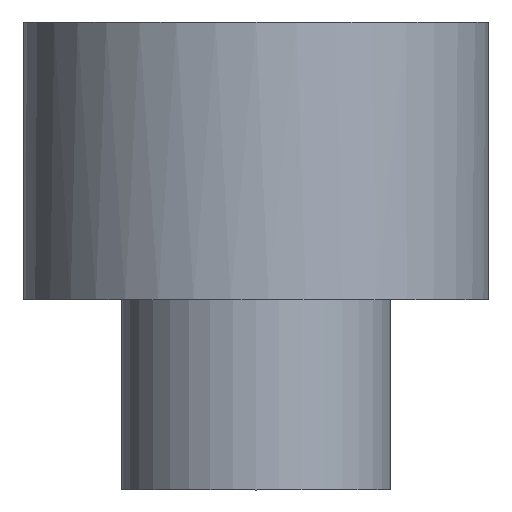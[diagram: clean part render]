
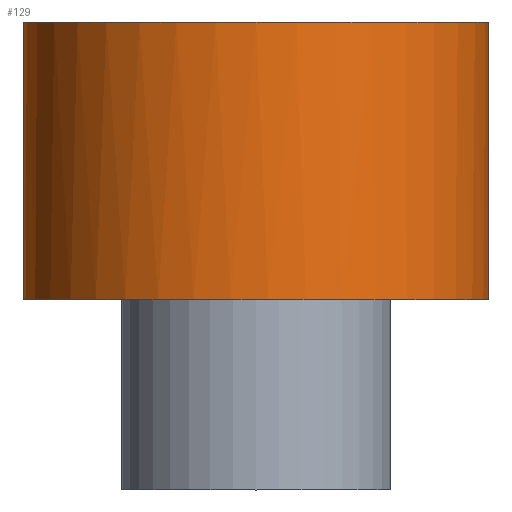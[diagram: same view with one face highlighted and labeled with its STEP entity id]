
A CAD part, left-side view. The second image highlights one B-rep face of the part: STEP entity #129.
In plain terms, the highlighted cylindrical face has radius 10.6 mm (diameter 21.2 mm), a full revolution.
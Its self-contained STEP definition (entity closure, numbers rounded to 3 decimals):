
#88=CARTESIAN_POINT('',(-6.,0.,-34.095));
#89=DIRECTION('',(0.,0.,-1.));
#90=DIRECTION('',(1.,0.,0.));
#91=AXIS2_PLACEMENT_3D('',#88,#89,#90);
#92=CYLINDRICAL_SURFACE('',#91,10.6);
#93=CARTESIAN_POINT('',(4.6,0.,-50.696));
#94=VERTEX_POINT('',#93);
#95=CARTESIAN_POINT('',(4.6,-0.,-38.045));
#96=VERTEX_POINT('',#95);
#97=CARTESIAN_POINT('',(4.6,0.,-50.696));
#98=DIRECTION('',(0.,-0.,1.));
#99=VECTOR('',#98,12.651);
#100=LINE('',#97,#99);
#101=EDGE_CURVE('',#94,#96,#100,.T.);
#102=ORIENTED_EDGE('',*,*,#101,.T.);
#103=CARTESIAN_POINT('',(-16.6,0.,-38.045));
#104=VERTEX_POINT('',#103);
#105=CARTESIAN_POINT('',(-6.,0.,-38.045));
#106=DIRECTION('',(0.,-0.,1.));
#107=DIRECTION('',(-1.,-0.,0.));
#108=AXIS2_PLACEMENT_3D('',#105,#106,#107);
#109=CIRCLE('',#108,10.6);
#110=EDGE_CURVE('',#104,#96,#109,.T.);
#111=ORIENTED_EDGE('',*,*,#110,.F.);
#112=CARTESIAN_POINT('',(-6.,0.,-38.045));
#113=DIRECTION('',(0.,-0.,1.));
#114=DIRECTION('',(-1.,-0.,0.));
#115=AXIS2_PLACEMENT_3D('',#112,#113,#114);
#116=CIRCLE('',#115,10.6);
#117=EDGE_CURVE('',#96,#104,#116,.T.);
#118=ORIENTED_EDGE('',*,*,#117,.F.);
#119=ORIENTED_EDGE('',*,*,#101,.F.);
#120=CARTESIAN_POINT('',(-6.,0.,-50.696));
#121=DIRECTION('',(-0.,-0.,-1.));
#122=DIRECTION('',(1.,0.,-0.));
#123=AXIS2_PLACEMENT_3D('',#120,#121,#122);
#124=ELLIPSE('',#123,10.6,10.6);
#125=EDGE_CURVE('',#94,#94,#124,.T.);
#126=ORIENTED_EDGE('',*,*,#125,.F.);
#127=EDGE_LOOP('',(#102,#111,#118,#119,#126));
#128=FACE_BOUND('',#127,.T.);
#129=ADVANCED_FACE('',(#128),#92,.T.);
